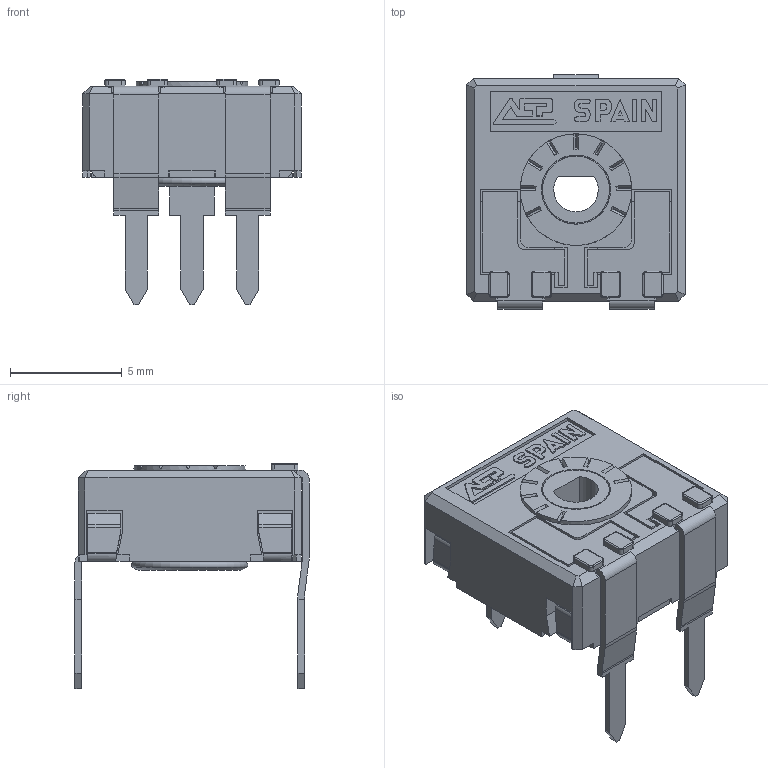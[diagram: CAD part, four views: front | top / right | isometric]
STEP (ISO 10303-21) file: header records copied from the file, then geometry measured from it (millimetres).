
FILE_DESCRIPTION(/* description */ (''),/* implementation_level */ '2;1');
FILE_NAME(/* name */ 'C:\Users\CEM\Desktop\ENVIAR\TRANSICION 3D CATALOGOS\RS9DV10.stp',/* time_stamp */ '2025-11-26T17:38:08+01:00',/* author */ ('CEM'),/* organization */ (''),/* preprocessor_version */ 'ST-DEVELOPER v16.13',/* originating_system */ 'Autodesk Inventor 2018',/* authorisation */ '');
FILE_SCHEMA (('AUTOMOTIVE_DESIGN { 1 0 10303 214 3 1 1 }'));
Length unit declared in the file: millimetre
Products named in the file (1): RS9DV10
Bounding box: 9.8 x 10.5 x 10.1 mm (x, y, z)
Volume: 248 mm3; surface area: 861.4 mm2
Topology: 2 solids, 2 shells, 604 faces, 1711 edges, 1096 vertices
Faces by surface type: plane 474, cylinder 94, torus 19, cone 17
Full cylindrical faces by diameter (mm): 3 x1, 3.1 x1, 4 x1, 4.8 x1, 5 x1
Entity records: 19479 total; most frequent: CARTESIAN_POINT 3451, ORIENTED_EDGE 3396, DIRECTION 3165, EDGE_CURVE 1696, LINE 1381, VECTOR 1381, VERTEX_POINT 1092, AXIS2_PLACEMENT_3D 892
